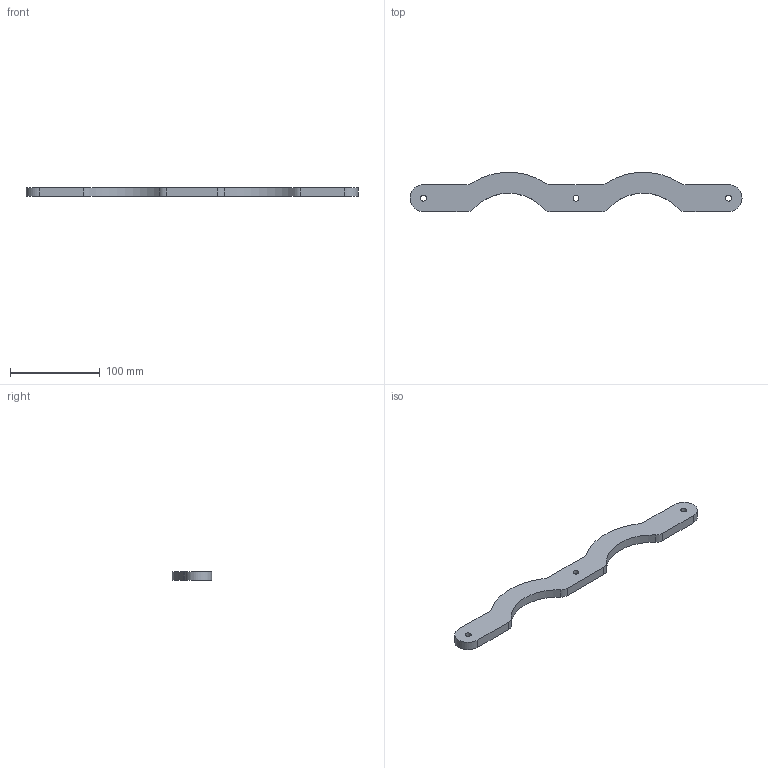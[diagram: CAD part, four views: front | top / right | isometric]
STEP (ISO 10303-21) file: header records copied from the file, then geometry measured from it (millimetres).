
FILE_DESCRIPTION( ( 'Unknown' ), '1' );
FILE_NAME( 'F:/navkite transat/construction/2016/3D ET ASSEMBLAGES/AMI/AMI 24.stp', 'Unknown', ( 'GMA' ), ( 'Unknown' ), 'XStep 1.0', 'Unknown', ' ' );
FILE_SCHEMA( ( 'automotive_design' ) );
Length unit declared in the file: millimetre
Products named in the file (1): 1
Bounding box: 370 x 43.74 x 10 mm (x, y, z)
Volume: 100749.8 mm3; surface area: 28862.1 mm2
Topology: 1 solids, 1 shells, 25 faces, 72 edges, 49 vertices
Faces by surface type: cylinder 17, plane 8
Full cylindrical faces by diameter (mm): 6.647 x3
Entity records: 1030 total; most frequent: DIRECTION 152, CARTESIAN_POINT 138, ORIENTED_EDGE 132, EDGE_CURVE 66, AXIS2_PLACEMENT_3D 60, VERTEX_POINT 46, EDGE_LOOP 34, CIRCLE 34
